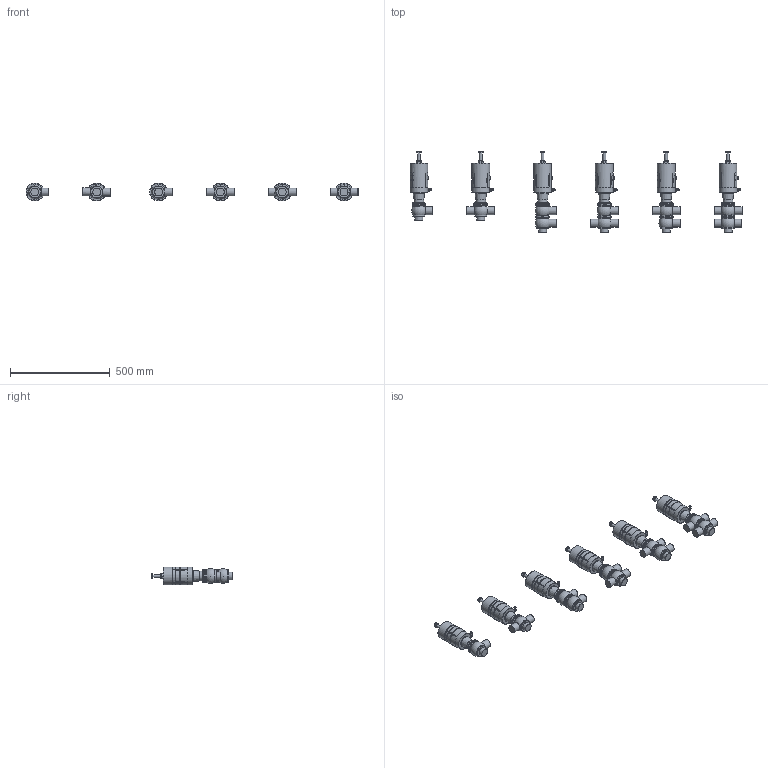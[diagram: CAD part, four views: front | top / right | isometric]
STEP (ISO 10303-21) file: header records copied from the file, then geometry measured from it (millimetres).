
FILE_DESCRIPTION((''),'2;1');
FILE_NAME('\\BV-SRV1\Ufficio tecnico\cad3d\PNEUMATICA\Ing1-1\pne bbzp e derivate\BBZS5\BBZS5-DN040-CIL83-SAL.iam.step','2009-10-19T10:17:47',(''),(''),'Autodesk Inventor 2010','Autodesk Inventor 2010','');
FILE_SCHEMA(('AUTOMOTIVE_DESIGN { 1 0 10303 214 1 1 1 1 }'));
Length unit declared in the file: millimetre
Products named in the file (7): BBZS5-DN040-CIL83-SAL; Assemblaggio-DN040; COR-INF-L-SAL-DN40; COR-INF-T-SAL-DN40; COR-SUP-L-SAL-DN40; COR-SUP-T-SAL-DN40; cil 83  tarabile
Assembly tree (22 placements, depth 2):
  BBZS5-DN040-CIL83-SAL
    Assemblaggio-DN040  x6
    COR-INF-L-SAL-DN40  x3
    COR-INF-T-SAL-DN40  x3
    COR-SUP-L-SAL-DN40  x2
    COR-SUP-T-SAL-DN40  x2
    cil 83  tarabile  x6
Bounding box: 1664.61 x 408.8 x 89.38 mm (x, y, z)
Volume: 9487835.8 mm3; surface area: 811355 mm2
Topology: 22 solids, 52 shells, 1332 faces, 3101 edges, 1864 vertices
Faces by surface type: plane 491, cylinder 349, cone 266, bspline 96, sphere 82, torus 48
Full cylindrical faces by diameter (mm): 4.9 x6, 6 x12, 7 x6, 8.3 x6, 10 x6, 11 x6, 11.5 x6, 14 x18, 19.37 x6, 40 x21, 49 x6, 57 x6, 61 x26, 69 x20, 84.813 x18, 86 x12, 86.1 x6, 88.5 x6, 89.5 x6
Entity records: 7462 total; most frequent: CARTESIAN_POINT 1992, DIRECTION 1084, ORIENTED_EDGE 908, AXIS2_PLACEMENT_3D 464, EDGE_CURVE 454, EDGE_LOOP 359, VERTEX_POINT 317, FACE_OUTER_BOUND 251
